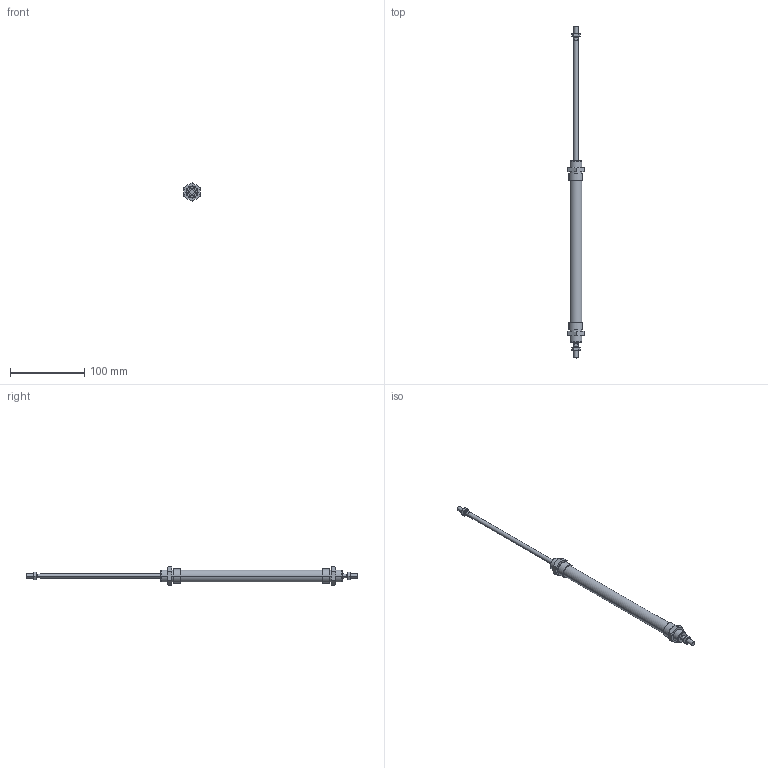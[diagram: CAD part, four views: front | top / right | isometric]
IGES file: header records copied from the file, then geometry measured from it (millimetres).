
Global section: file name: No Iges File Name specified; native system: AutoDesk Inventor R6.0; preprocessor: AutoDesk Inventor Iges Exporter R6.0; author: No Author specified; organization: No Organization specified; date: 20030403.072056; units: millimetre
Bounding box: 22 x 446 x 25.4 mm (x, y, z)
Volume: 59424.6 mm3; surface area: 29188 mm2
Topology: 6 solids, 6 shells, 180 faces, 388 edges, 228 vertices
Faces by surface type: cone 68, plane 56, bspline 30, cylinder 20, revolution 6
